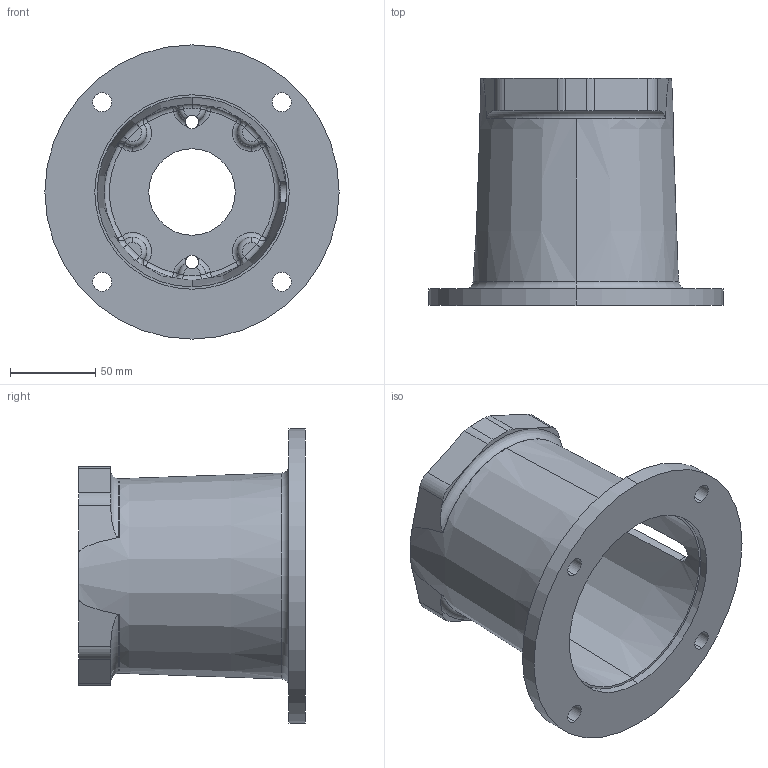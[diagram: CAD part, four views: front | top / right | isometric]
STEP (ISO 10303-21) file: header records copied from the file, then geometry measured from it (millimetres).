
FILE_DESCRIPTION (( 'STEP AP203' ), '1' );
FILE_NAME ('M056522AA.STEP', '2008-05-16T19:22:55', ( 'Chris McCoy' ), ( 'Magnaloy Coupling Co' ), 'SwSTEP 2.0', 'SolidWorks 2008', '' );
FILE_SCHEMA (( 'CONFIG_CONTROL_DESIGN' ));
Length unit declared in the file: inch
Products named in the file (1): M056522AA
Bounding box: 172.97 x 133.35 x 172.97 mm (x, y, z)
Volume: 424870.7 mm3; surface area: 136776.6 mm2
Topology: 1 solids, 1 shells, 164 faces, 420 edges, 247 vertices
Faces by surface type: torus 51, cylinder 28, plane 25, sphere 24, bspline 24, cone 12
Entity records: 6793 total; most frequent: CARTESIAN_POINT 2832, DIRECTION 868, ORIENTED_EDGE 816, EDGE_CURVE 408, AXIS2_PLACEMENT_3D 403, CIRCLE 262, VERTEX_POINT 247, EDGE_LOOP 181
